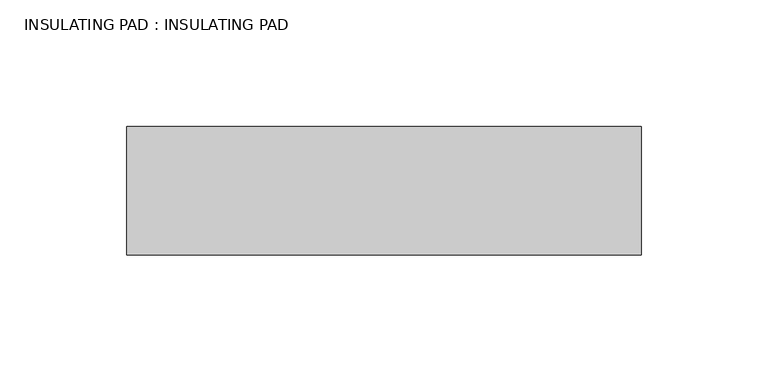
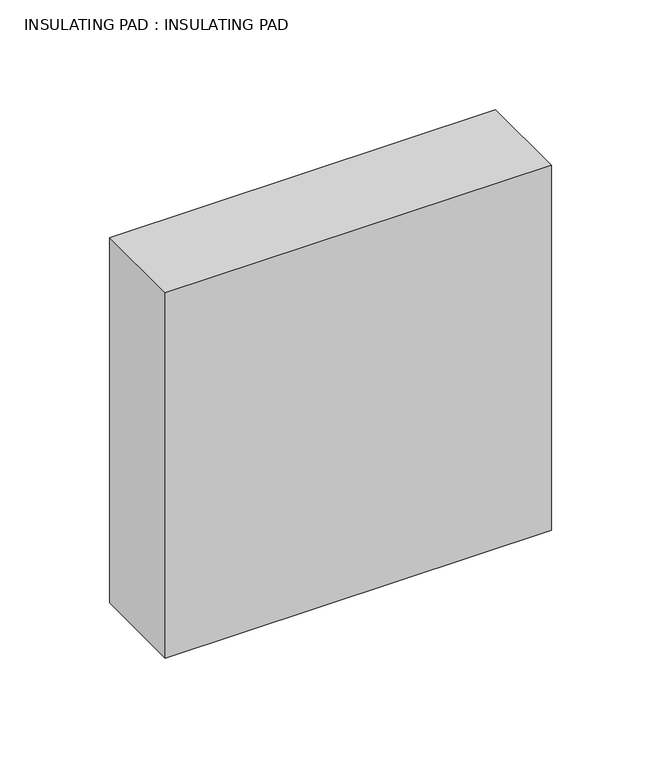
"""IFC4 building model written with IfcOpenShell, lengths in millimetres: proxy geometry, INSULATING PAD : INSULATING PAD."""

from ifc_helpers import new_model, si_unit, frame, origin, place, context, project, spatial, polyline, outline, extrude, source, transform, mapped, element, save


def insulating_pad_insulating_pad_763de035(model_context):
    return source(origin(), model_context, "Body", "SweptSolid", [
        extrude(outline(polyline([(101.6, -50.8), (-101.6, -50.8), (-101.6, 0.0), (101.6, 0.0), (101.6, -50.8)])), frame((0.0, 0.0, -101.6), z_axis=(0.0, 0.0, 1.0), x_axis=(1.0, 0.0, 0.0)), (0.0, 0.0, 1.0), 203.2),
    ])


if __name__ == "__main__":
    model = new_model("IFC4")
    model_context = context("Model", 3, world=origin())
    ifc_project = project(units=[si_unit("LENGTHUNIT", "METRE", prefix="MILLI")], contexts=[model_context])
    site = spatial("IfcSite", under=ifc_project)
    building = spatial("IfcBuilding", under=site)
    placement = place(None, origin())
    insulating_pad_insulating_pad_shape = insulating_pad_insulating_pad_763de035(model_context)
    element("IfcBuildingElementProxy", 1, Name="INSULATING PAD : INSULATING PAD", ObjectType="INSULATING PAD : INSULATING PAD", at=placement, inside=building, context=model_context, shape_type="MappedRepresentation", body=[
        mapped(insulating_pad_insulating_pad_shape, transform((0.0, 0.0, 0.0), x_axis=(1.0, 0.0, 0.0), y_axis=(0.0, 1.0, 0.0), z_axis=(0.0, 0.0, 1.0))),
    ])
    save(model, "model.ifc")
